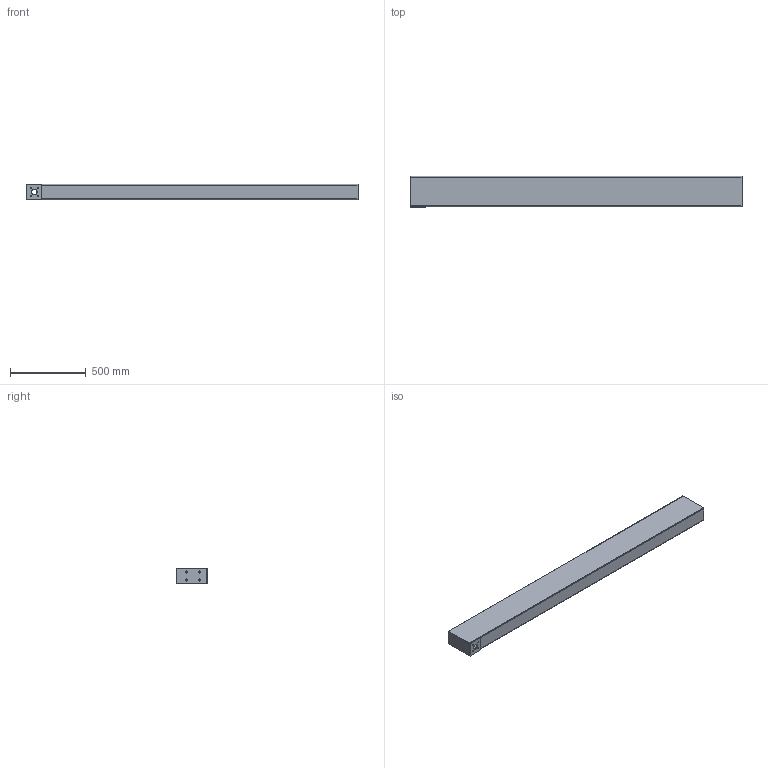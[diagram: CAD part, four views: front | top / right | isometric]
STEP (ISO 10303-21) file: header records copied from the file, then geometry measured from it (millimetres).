
FILE_DESCRIPTION(/* description */ (''),/* implementation_level */ '2;1');
FILE_NAME(/* name */ '2020TOMO-TELAIO-ASSY.00_v12-Part_01.stp',/* time_stamp */ '2022-05-16T13:11:41+02:00',/* author */ (''),/* organization */ (''),/* preprocessor_version */ 'ST-DEVELOPER v18.102',/* originating_system */ 'SIEMENS PLM Software NX 2000',/* authorisation */ '');
FILE_SCHEMA (('AUTOMOTIVE_DESIGN { 1 0 10303 214 3 1 1 1 }'));
Length unit declared in the file: millimetre
Products named in the file (1): turc3144724Fyy3v
Bounding box: 2185 x 205 x 100 mm (x, y, z)
Volume: 3926959.9 mm3; surface area: 2593537.2 mm2
Topology: 7 solids, 7 shells, 77 faces, 215 edges, 152 vertices
Faces by surface type: plane 54, cylinder 23
Full cylindrical faces by diameter (mm): 6.8 x4, 8.5 x8, 36 x3
Entity records: 2470 total; most frequent: DIRECTION 408, CARTESIAN_POINT 394, ORIENTED_EDGE 348, EDGE_CURVE 174, AXIS2_PLACEMENT_3D 140, LINE 128, VECTOR 128, VERTEX_POINT 126
